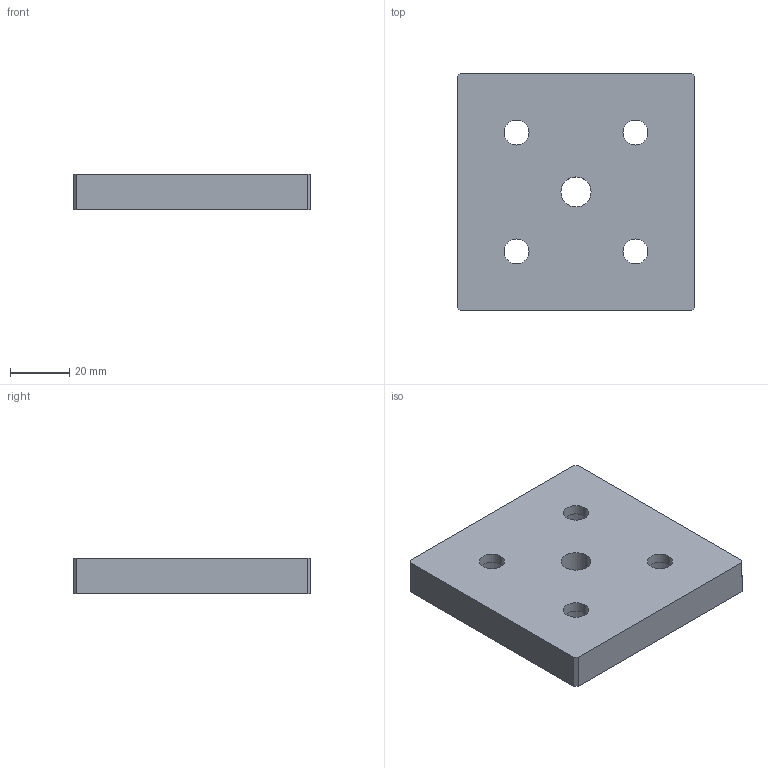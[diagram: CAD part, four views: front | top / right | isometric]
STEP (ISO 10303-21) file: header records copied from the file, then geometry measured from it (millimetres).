
FILE_DESCRIPTION (( 'STEP AP203' ), '1' );
FILE_NAME ('DFB8080(M12+M16).STEP', '2020-10-14T02:40:29', ( '' ), ( '' ), 'SwSTEP 2.0', 'SolidWorks 2017', '' );
FILE_SCHEMA (( 'CONFIG_CONTROL_DESIGN' ));
Length unit declared in the file: millimetre
Products named in the file (1): DFB8080(M12+M16)
Bounding box: 80 x 80 x 12 mm (x, y, z)
Volume: 68980.8 mm3; surface area: 18365.1 mm2
Topology: 1 solids, 1 shells, 32 faces, 78 edges, 52 vertices
Faces by surface type: cylinder 18, plane 14
Entity records: 1055 total; most frequent: DIRECTION 180, CARTESIAN_POINT 163, ORIENTED_EDGE 156, EDGE_CURVE 78, AXIS2_PLACEMENT_3D 69, VERTEX_POINT 52, EDGE_LOOP 46, VECTOR 42
